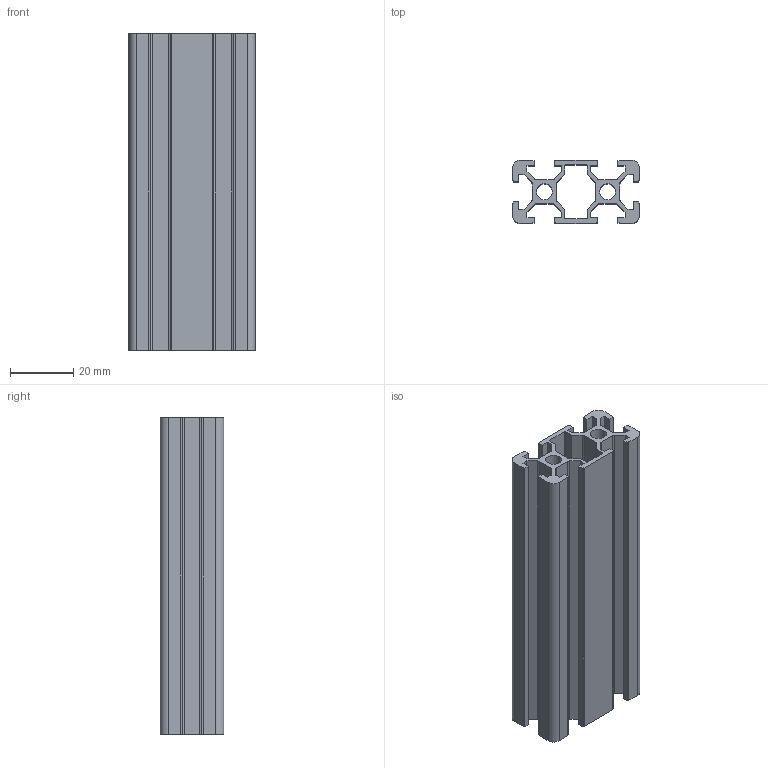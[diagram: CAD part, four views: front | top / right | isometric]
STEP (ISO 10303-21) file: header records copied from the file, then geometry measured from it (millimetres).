
FILE_DESCRIPTION (( 'STEP AP203' ), '1' );
FILE_NAME ('LIMA-2040-6.STEP', '2018-03-15T12:28:23', ( '' ), ( '' ), 'SwSTEP 2.0', 'SolidWorks 2013', '' );
FILE_SCHEMA (( 'CONFIG_CONTROL_DESIGN' ));
Length unit declared in the file: millimetre
Products named in the file (1): LIMA-2040-6
Bounding box: 40 x 20 x 100 mm (x, y, z)
Volume: 27280.1 mm3; surface area: 31761.7 mm2
Topology: 1 solids, 1 shells, 130 faces, 384 edges, 256 vertices
Faces by surface type: plane 102, cylinder 28
Entity records: 4393 total; most frequent: CARTESIAN_POINT 771, ORIENTED_EDGE 768, DIRECTION 702, EDGE_CURVE 384, VECTOR 328, LINE 328, VERTEX_POINT 256, AXIS2_PLACEMENT_3D 187
